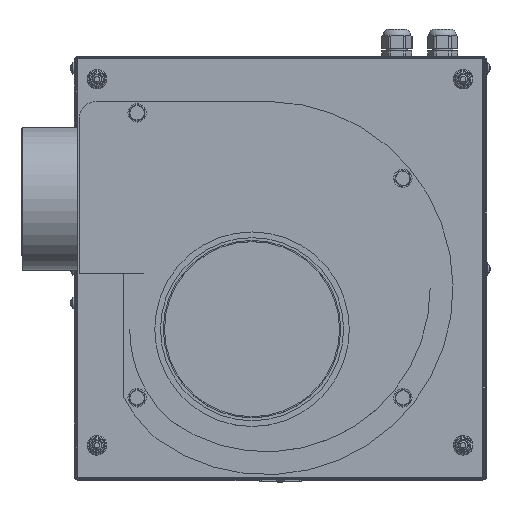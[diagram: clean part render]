
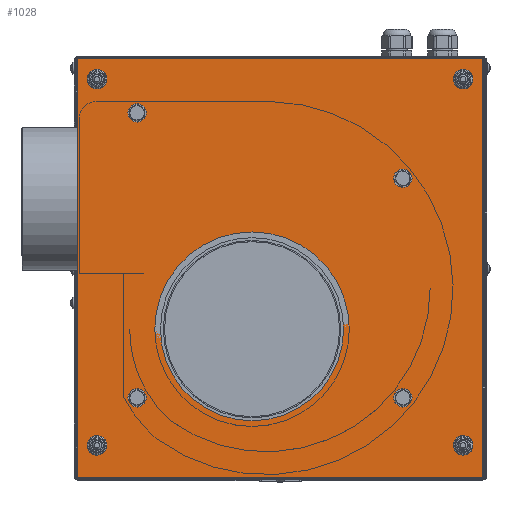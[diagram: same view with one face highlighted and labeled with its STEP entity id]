
A CAD part, top view. The second image highlights one B-rep face of the part: STEP entity #1028.
In plain terms, the highlighted planar face has unit normal (0, 0, 1).
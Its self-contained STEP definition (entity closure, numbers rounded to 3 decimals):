
#1028=ADVANCED_FACE('',(#11714,#11716,#11718,#11720,#11722,#11724,#11726,#11728,
#11730,#11732),#11734,.F.);
#11714=FACE_BOUND('',#11715,.T.);
#11715=EDGE_LOOP('',(#29001,#29002,#29003,#29004,#29005,#29006,#29007));
#11716=FACE_BOUND('',#11717,.T.);
#11717=EDGE_LOOP('',(#29008));
#11718=FACE_BOUND('',#11719,.T.);
#11719=EDGE_LOOP('',(#29009));
#11720=FACE_BOUND('',#11721,.T.);
#11721=EDGE_LOOP('',(#29010));
#11722=FACE_BOUND('',#11723,.T.);
#11723=EDGE_LOOP('',(#29011));
#11724=FACE_BOUND('',#11725,.T.);
#11725=EDGE_LOOP('',(#29012));
#11726=FACE_BOUND('',#11727,.T.);
#11727=EDGE_LOOP('',(#29013));
#11728=FACE_BOUND('',#11729,.T.);
#11729=EDGE_LOOP('',(#29014));
#11730=FACE_BOUND('',#11731,.T.);
#11731=EDGE_LOOP('',(#29015));
#11732=FACE_BOUND('',#11733,.T.);
#11733=EDGE_LOOP('',(#29016));
#11734=PLANE('',#11735);
#11735=AXIS2_PLACEMENT_3D('',#11736,#11737,#11738);
#11736=CARTESIAN_POINT('',(0.,846.398,480.));
#11737=DIRECTION('',(0.,0.,-1.));
#11738=DIRECTION('',(-1.,0.,0.));
#29001=ORIENTED_EDGE('',*,*,#38822,.T.);
#29002=ORIENTED_EDGE('',*,*,#38823,.F.);
#29003=ORIENTED_EDGE('',*,*,#38824,.T.);
#29004=ORIENTED_EDGE('',*,*,#38825,.F.);
#29005=ORIENTED_EDGE('',*,*,#38826,.T.);
#29006=ORIENTED_EDGE('',*,*,#38827,.F.);
#29007=ORIENTED_EDGE('',*,*,#38828,.T.);
#29008=ORIENTED_EDGE('',*,*,#38816,.F.);
#29009=ORIENTED_EDGE('',*,*,#38813,.F.);
#29010=ORIENTED_EDGE('',*,*,#38829,.T.);
#29011=ORIENTED_EDGE('',*,*,#38830,.T.);
#29012=ORIENTED_EDGE('',*,*,#38831,.T.);
#29013=ORIENTED_EDGE('',*,*,#38832,.T.);
#29014=ORIENTED_EDGE('',*,*,#38833,.T.);
#29015=ORIENTED_EDGE('',*,*,#38810,.F.);
#29016=ORIENTED_EDGE('',*,*,#38819,.F.);
#38810=EDGE_CURVE('',#44459,#44459,#44460,.T.);
#38813=EDGE_CURVE('',#44465,#44465,#44466,.T.);
#38816=EDGE_CURVE('',#44471,#44471,#44472,.T.);
#38819=EDGE_CURVE('',#44477,#44477,#44478,.T.);
#38822=EDGE_CURVE('',#44483,#44484,#44485,.T.);
#38823=EDGE_CURVE('',#44486,#44484,#44487,.T.);
#38824=EDGE_CURVE('',#44486,#44488,#44489,.T.);
#38825=EDGE_CURVE('',#44490,#44488,#44491,.T.);
#38826=EDGE_CURVE('',#44490,#44492,#44493,.T.);
#38827=EDGE_CURVE('',#44494,#44492,#44495,.T.);
#38828=EDGE_CURVE('',#44494,#44483,#44496,.T.);
#38829=EDGE_CURVE('',#44497,#44497,#44498,.F.);
#38830=EDGE_CURVE('',#44499,#44499,#44500,.F.);
#38831=EDGE_CURVE('',#44501,#44501,#44502,.F.);
#38832=EDGE_CURVE('',#44503,#44503,#44504,.F.);
#38833=EDGE_CURVE('',#44505,#44505,#44506,.F.);
#44459=VERTEX_POINT('',#52209);
#44460=CIRCLE('',#52210,8.);
#44465=VERTEX_POINT('',#52224);
#44466=CIRCLE('',#52225,8.);
#44471=VERTEX_POINT('',#52239);
#44472=CIRCLE('',#52240,8.);
#44477=VERTEX_POINT('',#52254);
#44478=CIRCLE('',#52255,8.);
#44483=VERTEX_POINT('',#52269);
#44484=VERTEX_POINT('',#52270);
#44485=LINE('',#52271,#52272);
#44486=VERTEX_POINT('',#52274);
#44487=LINE('',#52275,#52276);
#44488=VERTEX_POINT('',#52278);
#44489=LINE('',#52279,#52280);
#44490=VERTEX_POINT('',#52282);
#44491=LINE('',#52283,#52284);
#44492=VERTEX_POINT('',#52286);
#44493=LINE('',#52287,#52288);
#44494=VERTEX_POINT('',#52290);
#44495=LINE('',#52291,#52292);
#44496=LINE('',#52294,#52295);
#44497=VERTEX_POINT('',#52297);
#44498=CIRCLE('',#52298,80.);
#44499=VERTEX_POINT('',#52302);
#44500=CIRCLE('',#52303,4.5);
#44501=VERTEX_POINT('',#52307);
#44502=CIRCLE('',#52308,4.5);
#44503=VERTEX_POINT('',#52312);
#44504=CIRCLE('',#52313,4.5);
#44505=VERTEX_POINT('',#52317);
#44506=CIRCLE('',#52318,4.5);
#52209=CARTESIAN_POINT('',(100.356,78.403,480.));
#52210=AXIS2_PLACEMENT_3D('',#52211,#52212,#52213);
#52211=CARTESIAN_POINT('',(92.356,78.403,480.));
#52212=DIRECTION('',(-0.,0.,1.));
#52213=DIRECTION('',(1.,0.,0.));
#52224=CARTESIAN_POINT('',(100.356,-113.5,480.));
#52225=AXIS2_PLACEMENT_3D('',#52226,#52227,#52228);
#52226=CARTESIAN_POINT('',(92.356,-113.5,480.));
#52227=DIRECTION('',(-0.,0.,1.));
#52228=DIRECTION('',(1.,0.,0.));
#52239=CARTESIAN_POINT('',(-131.956,135.479,480.));
#52240=AXIS2_PLACEMENT_3D('',#52241,#52242,#52243);
#52241=CARTESIAN_POINT('',(-139.956,135.479,480.));
#52242=DIRECTION('',(-0.,0.,1.));
#52243=DIRECTION('',(1.,0.,0.));
#52254=CARTESIAN_POINT('',(-131.956,-113.5,480.));
#52255=AXIS2_PLACEMENT_3D('',#52256,#52257,#52258);
#52256=CARTESIAN_POINT('',(-139.956,-113.5,480.));
#52257=DIRECTION('',(-0.,0.,1.));
#52258=DIRECTION('',(1.,0.,0.));
#52269=CARTESIAN_POINT('',(162.,183.,480.));
#52270=CARTESIAN_POINT('',(-192.,183.,480.));
#52271=CARTESIAN_POINT('',(162.,183.,480.));
#52272=VECTOR('',#52273,1.);
#52273=DIRECTION('',(-1.,0.,0.));
#52274=CARTESIAN_POINT('',(-192.,-9.,480.));
#52275=CARTESIAN_POINT('',(-192.,-9.,480.));
#52276=VECTOR('',#52277,1.);
#52277=DIRECTION('',(0.,1.,0.));
#52278=CARTESIAN_POINT('',(-192.,-181.,480.));
#52279=CARTESIAN_POINT('',(-192.,-9.,480.));
#52280=VECTOR('',#52281,1.);
#52281=DIRECTION('',(0.,-1.,0.));
#52282=CARTESIAN_POINT('',(-192.,-183.,480.));
#52283=CARTESIAN_POINT('',(-192.,-183.,480.));
#52284=VECTOR('',#52285,1.);
#52285=DIRECTION('',(0.,1.,0.));
#52286=CARTESIAN_POINT('',(162.,-183.,480.));
#52287=CARTESIAN_POINT('',(-192.,-183.,480.));
#52288=VECTOR('',#52289,1.);
#52289=DIRECTION('',(1.,0.,0.));
#52290=CARTESIAN_POINT('',(162.,-181.,480.));
#52291=CARTESIAN_POINT('',(162.,-181.,480.));
#52292=VECTOR('',#52293,1.);
#52293=DIRECTION('',(0.,-1.,0.));
#52294=CARTESIAN_POINT('',(162.,-181.,480.));
#52295=VECTOR('',#52296,1.);
#52296=DIRECTION('',(0.,1.,0.));
#52297=CARTESIAN_POINT('',(-119.5,-53.5,480.));
#52298=AXIS2_PLACEMENT_3D('',#52299,#52300,#52301);
#52299=CARTESIAN_POINT('',(-39.5,-53.5,480.));
#52300=DIRECTION('',(-0.,0.,1.));
#52301=DIRECTION('',(-1.,0.,0.));
#52302=CARTESIAN_POINT('',(140.5,165.,480.));
#52303=AXIS2_PLACEMENT_3D('',#52304,#52305,#52306);
#52304=CARTESIAN_POINT('',(145.,165.,480.));
#52305=DIRECTION('',(-0.,0.,1.));
#52306=DIRECTION('',(-1.,0.,0.));
#52307=CARTESIAN_POINT('',(-179.5,165.,480.));
#52308=AXIS2_PLACEMENT_3D('',#52309,#52310,#52311);
#52309=CARTESIAN_POINT('',(-175.,165.,480.));
#52310=DIRECTION('',(-0.,0.,1.));
#52311=DIRECTION('',(-1.,0.,0.));
#52312=CARTESIAN_POINT('',(-179.5,-155.,480.));
#52313=AXIS2_PLACEMENT_3D('',#52314,#52315,#52316);
#52314=CARTESIAN_POINT('',(-175.,-155.,480.));
#52315=DIRECTION('',(-0.,0.,1.));
#52316=DIRECTION('',(-1.,0.,0.));
#52317=CARTESIAN_POINT('',(140.5,-155.,480.));
#52318=AXIS2_PLACEMENT_3D('',#52319,#52320,#52321);
#52319=CARTESIAN_POINT('',(145.,-155.,480.));
#52320=DIRECTION('',(-0.,0.,1.));
#52321=DIRECTION('',(-1.,0.,0.));
